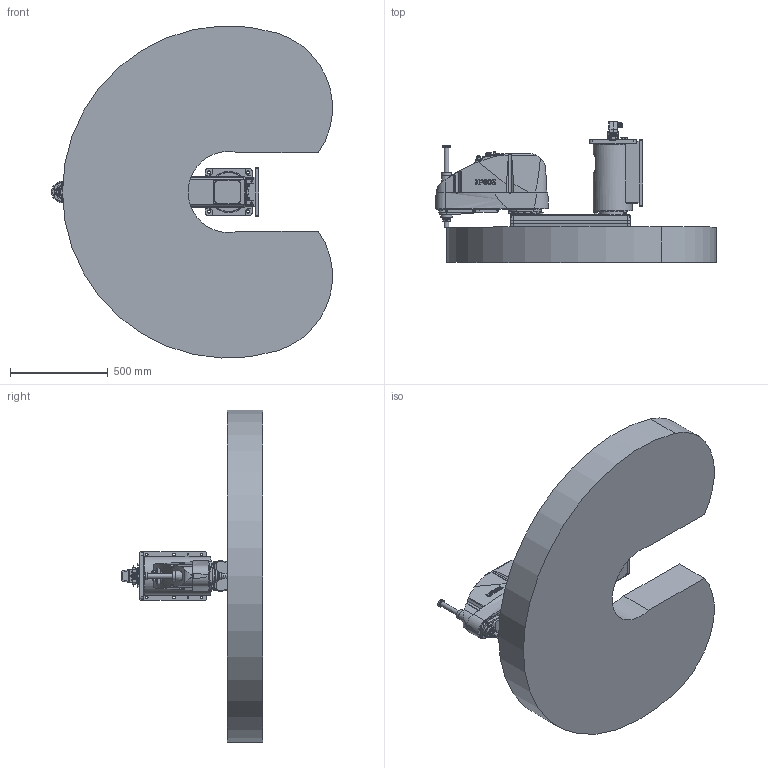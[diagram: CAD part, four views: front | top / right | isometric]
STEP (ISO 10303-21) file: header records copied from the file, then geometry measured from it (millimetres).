
FILE_DESCRIPTION( ( 'STEP AP214' ), '1' );
FILE_NAME( 'C:/Users/9607552/Desktop/GX10-B851SW_langle.stp', '2023-08-01T09:23:26', ( '' ), ( '' ), ' ', 'PARTsolutions', ' ' );
FILE_SCHEMA( ( 'AUTOMOTIVE_DESIGN { 1 0 10303 214 1 1 1 1 }' ) );
Length unit declared in the file: millimetre
Products named in the file (7): GX10-B851SWA-W; _Base sw; _Angle-B; _J1 Arm GX10-450 r/w; _J2 Arm GX10-s; _J3 Arm GX10-s (1); _GX10_20B-28_1
Assembly tree (6 placements, depth 2):
  GX10-B851SWA-W
    _Base sw
    _Angle-B
    _J1 Arm GX10-450 r/w
    _J2 Arm GX10-s
    _J3 Arm GX10-s (1)
    _GX10_20B-28_1
Bounding box: 1435.96 x 721.6 x 1698.44 mm (x, y, z)
Volume: 341631383.7 mm3; surface area: 5973035.7 mm2
Topology: 6 solids, 6 shells, 2525 faces, 6201 edges, 4057 vertices
Faces by surface type: plane 1326, cylinder 802, cone 302, torus 62, bspline 32, sphere 1
Full cylindrical faces by diameter (mm): 1 x24, 1.18 x55, 2.5 x2, 3 x32, 3.242 x10, 3.3 x4, 4.2 x4, 4.8 x4, 5.1 x4, 5.25 x2, 5.34 x8, 5.4 x5, 5.5 x16, 6 x2, 6.2 x4, 6.647 x2, 6.8 x2, 7 x23, 7.59 x8, 8 x9, 8.5 x2, 9 x4, 10 x32, 11 x14, 12 x6, 12.25 x1, 13 x8, 14 x20, 14.25 x1, 16 x6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
Entity records: 95621 total; most frequent: CARTESIAN_POINT 17907, DIRECTION 11889, ORIENTED_EDGE 11000, EDGE_CURVE 5500, AXIS2_PLACEMENT_3D 4543, VERTEX_POINT 3968, EDGE_LOOP 3560, FACE_OUTER_BOUND 2920
